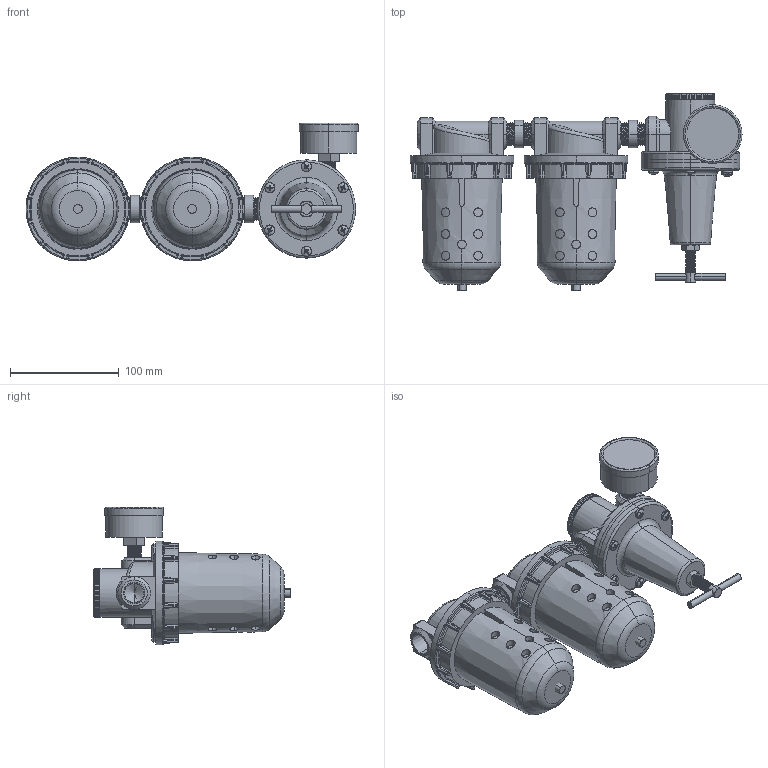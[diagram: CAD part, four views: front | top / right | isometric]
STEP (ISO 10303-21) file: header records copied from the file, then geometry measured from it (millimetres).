
FILE_DESCRIPTION (( 'STEP AP203' ), '1' );
FILE_NAME ('C728##-04YB#.STEP', '2016-01-14T17:43:38', ( '' ), ( '' ), 'SwSTEP 2.0', 'SolidWorks 2014', '' );
FILE_SCHEMA (( 'CONFIG_CONTROL_DESIGN' ));
Length unit declared in the file: millimetre
Products named in the file (18): R119-04-1; R119-04-無固定架; R119-04-2; F602-04-下; 50-P-AD=1-4PT.SLDPRT; C728##-04YB#; R119-04-4; R119-02-5; R119-04-3; R119-02-6; L606-W-06-5; R119-02-7; 50-P-AD=1-4PT-1; 1-2-圓; 50-P-AD=1-4PT-2; F602-04-上; F602-04#YB#; ISO 7045 - M5 x 12
Assembly tree (25 placements, depth 4):
  C728##-04YB#
    F602-04#YB#  x2
      L606-W-06-5
      F602-04-上
      F602-04-下
    1-2-圓  x2
    R119-04-無固定架
      R119-04-1
      R119-04-2
      R119-04-3
      R119-04-4
      R119-02-5
      R119-02-7
      R119-02-6
      ISO 7045 - M5 x 12  x7
      50-P-AD=1-4PT.SLDPRT
        50-P-AD=1-4PT-1
        50-P-AD=1-4PT-2
Bounding box: 305.75 x 181.5 x 126.75 mm (x, y, z)
Volume: 1577992.6 mm3; surface area: 220839.8 mm2
Topology: 24 solids, 24 shells, 1610 faces, 3915 edges, 2331 vertices
Faces by surface type: plane 484, cylinder 378, cone 368, bspline 208, torus 98, sphere 74
Entity records: 44553 total; most frequent: CARTESIAN_POINT 21336, ORIENTED_EDGE 4706, DIRECTION 4077, EDGE_CURVE 2353, AXIS2_PLACEMENT_3D 1688, VERTEX_POINT 1417, EDGE_LOOP 1042, FACE_OUTER_BOUND 995
